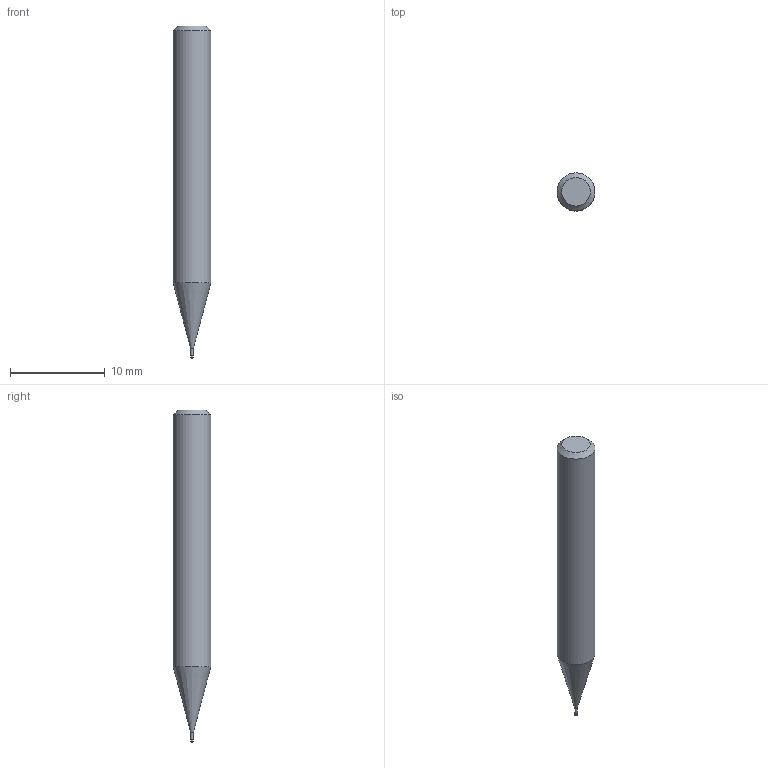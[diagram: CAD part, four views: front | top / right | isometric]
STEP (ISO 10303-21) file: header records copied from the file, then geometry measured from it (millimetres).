
FILE_DESCRIPTION((''),'2;1');
FILE_NAME('C:\Users\nsx150\AppData\Local\Temp\Mastercam 2021\80JYEHYUML\TEMP.step','2022-03-29T14:34:55',(''),(''),'STEP Write','Mastercam 2021 ... CNC Software, Inc.','');
FILE_SCHEMA(('AUTOMOTIVE_DESIGN'));
Length unit declared in the file: millimetre
Products named in the file (1): None
Bounding box: 4 x 4 x 35 mm (x, y, z)
Volume: 369.9 mm3; surface area: 398 mm2
Topology: 2 solids, 2 shells, 10 faces, 14 edges, 8 vertices
Faces by surface type: plane 4, cylinder 3, cone 2, torus 1
Full cylindrical faces by diameter (mm): 0.28 x1, 0.3 x1, 4 x1
Entity records: 232 total; most frequent: DIRECTION 40, CARTESIAN_POINT 28, AXIS2_PLACEMENT_3D 20, ORIENTED_EDGE 16, EDGE_LOOP 16, STYLED_ITEM 13, ADVANCED_FACE 10, FACE_BOUND 10
